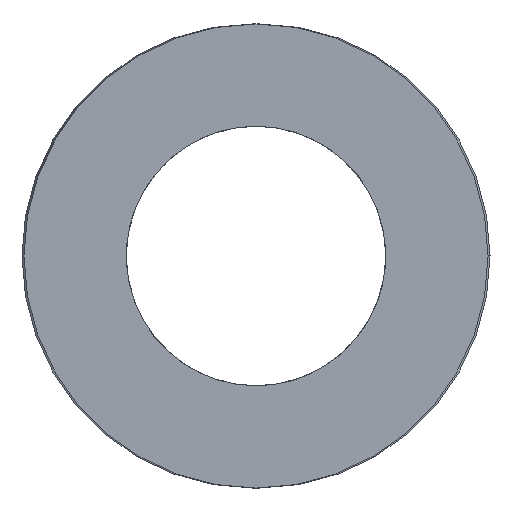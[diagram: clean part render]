
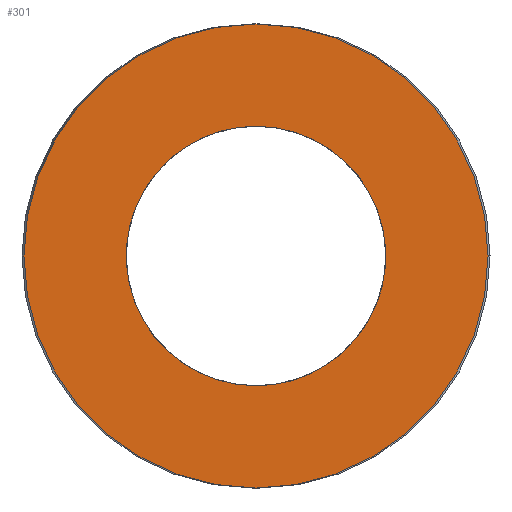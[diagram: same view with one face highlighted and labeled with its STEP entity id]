
A CAD part, left-side view. The second image highlights one B-rep face of the part: STEP entity #301.
In plain terms, the highlighted planar face has unit normal (-1, 0, 0).
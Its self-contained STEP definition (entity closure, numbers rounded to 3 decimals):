
#63=CARTESIAN_POINT('Vertex',(0.,12.25,0.)) ;
#77=CARTESIAN_POINT('Vertex',(0.,-12.25,0.)) ;
#80=CARTESIAN_POINT('Axis2P3D Location',(0.,0.,0.)) ;
#97=CARTESIAN_POINT('Axis2P3D Location',(0.,0.,0.)) ;
#232=CARTESIAN_POINT('Axis2P3D Location',(0.,6.125,0.)) ;
#242=CARTESIAN_POINT('Control Point',(0.,0.,-6.85)) ;
#243=CARTESIAN_POINT('Control Point',(0.,0.641,-6.85)) ;
#244=CARTESIAN_POINT('Control Point',(0.,1.282,-6.775)) ;
#245=CARTESIAN_POINT('Control Point',(0.,1.912,-6.625)) ;
#246=CARTESIAN_POINT('Control Point',(0.,3.124,-6.181)) ;
#247=CARTESIAN_POINT('Control Point',(0.,4.2,-5.468)) ;
#248=CARTESIAN_POINT('Control Point',(0.,4.694,-5.051)) ;
#249=CARTESIAN_POINT('Control Point',(0.,5.576,-4.107)) ;
#250=CARTESIAN_POINT('Control Point',(0.,6.215,-2.986)) ;
#251=CARTESIAN_POINT('Control Point',(0.,6.468,-2.39)) ;
#252=CARTESIAN_POINT('Control Point',(0.,6.829,-1.151)) ;
#253=CARTESIAN_POINT('Control Point',(0.,6.894,0.139)) ;
#254=CARTESIAN_POINT('Control Point',(0.,6.851,0.784)) ;
#255=CARTESIAN_POINT('Control Point',(0.,6.614,2.053)) ;
#256=CARTESIAN_POINT('Control Point',(0.,6.09,3.233)) ;
#257=CARTESIAN_POINT('Control Point',(0.,5.76,3.79)) ;
#258=CARTESIAN_POINT('Control Point',(0.,4.977,4.816)) ;
#259=CARTESIAN_POINT('Control Point',(0.,3.977,5.633)) ;
#260=CARTESIAN_POINT('Control Point',(0.,3.432,5.981)) ;
#261=CARTESIAN_POINT('Control Point',(0.,2.436,6.462)) ;
#262=CARTESIAN_POINT('Control Point',(0.,1.368,6.735)) ;
#263=CARTESIAN_POINT('Control Point',(0.,0.915,6.812)) ;
#264=CARTESIAN_POINT('Control Point',(0.,0.457,6.85)) ;
#265=CARTESIAN_POINT('Control Point',(0.,0.,6.85)) ;
#266=CARTESIAN_POINT('Vertex',(0.,0.,-6.85)) ;
#268=CARTESIAN_POINT('Vertex',(0.,0.,6.85)) ;
#272=CARTESIAN_POINT('Control Point',(0.,0.,6.85)) ;
#273=CARTESIAN_POINT('Control Point',(0.,-0.641,6.85)) ;
#274=CARTESIAN_POINT('Control Point',(0.,-1.282,6.775)) ;
#275=CARTESIAN_POINT('Control Point',(0.,-1.912,6.625)) ;
#276=CARTESIAN_POINT('Control Point',(0.,-3.124,6.181)) ;
#277=CARTESIAN_POINT('Control Point',(0.,-4.2,5.468)) ;
#278=CARTESIAN_POINT('Control Point',(0.,-4.694,5.051)) ;
#279=CARTESIAN_POINT('Control Point',(0.,-5.576,4.107)) ;
#280=CARTESIAN_POINT('Control Point',(0.,-6.215,2.986)) ;
#281=CARTESIAN_POINT('Control Point',(0.,-6.468,2.39)) ;
#282=CARTESIAN_POINT('Control Point',(0.,-6.829,1.151)) ;
#283=CARTESIAN_POINT('Control Point',(0.,-6.894,-0.139)) ;
#284=CARTESIAN_POINT('Control Point',(0.,-6.851,-0.784)) ;
#285=CARTESIAN_POINT('Control Point',(0.,-6.614,-2.053)) ;
#286=CARTESIAN_POINT('Control Point',(0.,-6.09,-3.233)) ;
#287=CARTESIAN_POINT('Control Point',(0.,-5.76,-3.79)) ;
#288=CARTESIAN_POINT('Control Point',(0.,-4.977,-4.816)) ;
#289=CARTESIAN_POINT('Control Point',(0.,-3.977,-5.633)) ;
#290=CARTESIAN_POINT('Control Point',(0.,-3.432,-5.981)) ;
#291=CARTESIAN_POINT('Control Point',(0.,-2.436,-6.462)) ;
#292=CARTESIAN_POINT('Control Point',(0.,-1.368,-6.735)) ;
#293=CARTESIAN_POINT('Control Point',(0.,-0.915,-6.812)) ;
#294=CARTESIAN_POINT('Control Point',(0.,-0.457,-6.85)) ;
#295=CARTESIAN_POINT('Control Point',(0.,0.,-6.85)) ;
#81=DIRECTION('Axis2P3D Direction',(1.,-0.,0.)) ;
#98=DIRECTION('Axis2P3D Direction',(1.,-0.,0.)) ;
#233=DIRECTION('Axis2P3D Direction',(-1.,0.,0.)) ;
#234=DIRECTION('Axis2P3D XDirection',(0.,1.,0.)) ;
#82=AXIS2_PLACEMENT_3D('Circle Axis2P3D',#80,#81,$) ;
#99=AXIS2_PLACEMENT_3D('Circle Axis2P3D',#97,#98,$) ;
#235=AXIS2_PLACEMENT_3D('Plane Axis2P3D',#232,#233,#234) ;
#238=ORIENTED_EDGE('',*,*,#84,.T.) ;
#239=ORIENTED_EDGE('',*,*,#101,.T.) ;
#298=ORIENTED_EDGE('',*,*,#270,.T.) ;
#299=ORIENTED_EDGE('',*,*,#296,.T.) ;
#300=FACE_BOUND('',#297,.T.) ;
#301=ADVANCED_FACE('392-B25-152',(#240,#300),#236,.T.) ;
#241=B_SPLINE_CURVE_WITH_KNOTS('',5,(#242,#243,#244,#245,#246,#247,#248,#249,#250,#251,#252,#253,#254,#255,#256,#257,#258,#259,#260,#261,#262,#263,#264,#265),.UNSPECIFIED.,.F.,.U.,(6,3,3,3,3,3,3,6),(0.,4.533,9.066,13.6,18.133,22.666,27.199,30.433),.UNSPECIFIED.) ;
#271=B_SPLINE_CURVE_WITH_KNOTS('',5,(#272,#273,#274,#275,#276,#277,#278,#279,#280,#281,#282,#283,#284,#285,#286,#287,#288,#289,#290,#291,#292,#293,#294,#295),.UNSPECIFIED.,.F.,.U.,(6,3,3,3,3,3,3,6),(0.,4.533,9.066,13.6,18.133,22.666,27.199,30.433),.UNSPECIFIED.) ;
#83=CIRCLE('generated circle',#82,12.25) ;
#100=CIRCLE('generated circle',#99,12.25) ;
#84=EDGE_CURVE('',#64,#78,#83,.F.) ;
#101=EDGE_CURVE('',#78,#64,#100,.F.) ;
#270=EDGE_CURVE('',#267,#269,#241,.T.) ;
#296=EDGE_CURVE('',#269,#267,#271,.T.) ;
#237=EDGE_LOOP('',(#238,#239)) ;
#297=EDGE_LOOP('',(#298,#299)) ;
#240=FACE_OUTER_BOUND('',#237,.T.) ;
#236=PLANE('Plane',#235) ;
#64=VERTEX_POINT('',#63) ;
#78=VERTEX_POINT('',#77) ;
#267=VERTEX_POINT('',#266) ;
#269=VERTEX_POINT('',#268) ;
